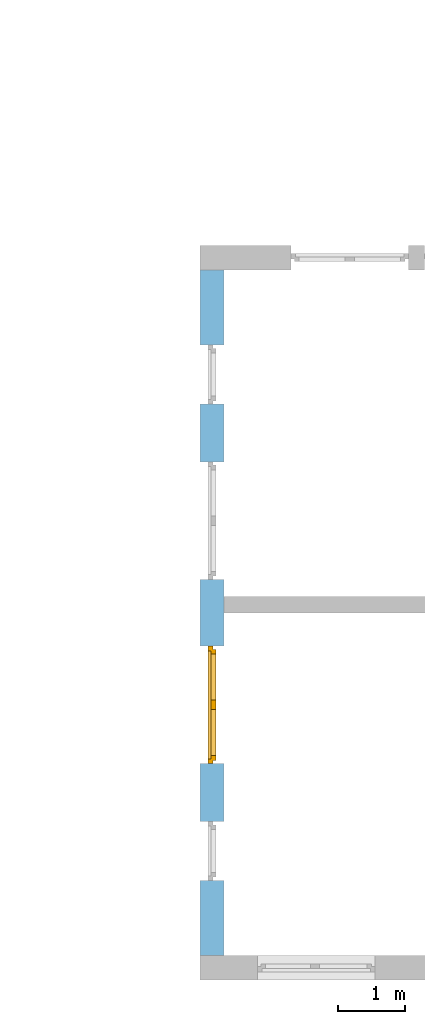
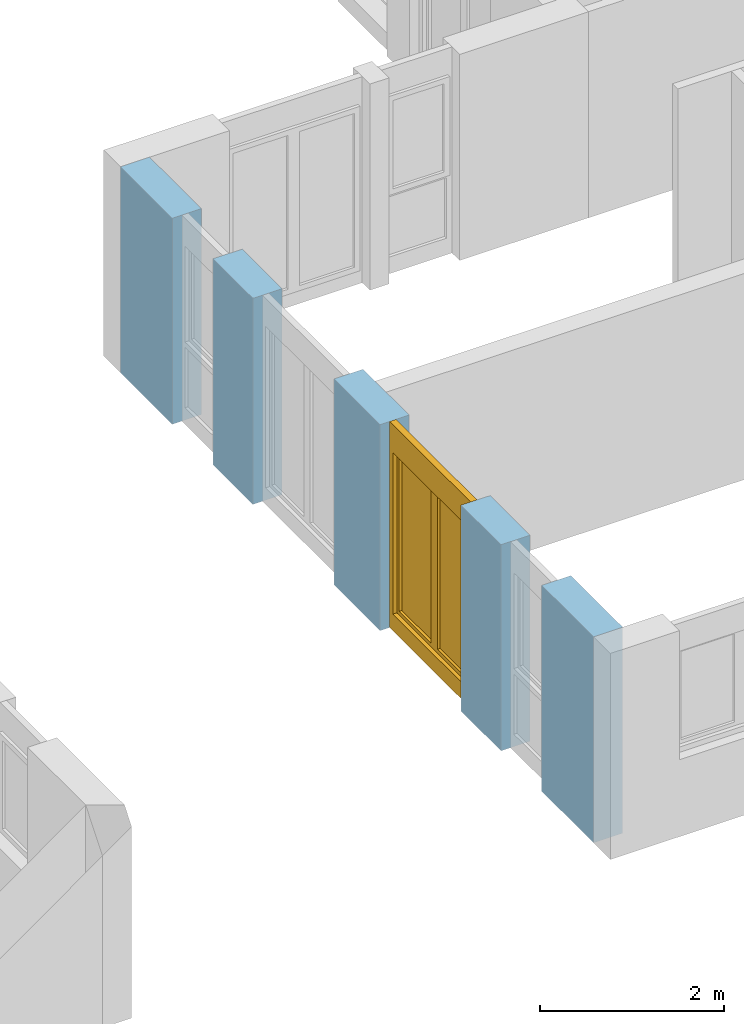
# One storey, part 14 of 41: 1 window, 4 openings, plus 1 element that does not belong to this part.
"""IFC2X3 building model written with IfcOpenShell, lengths in millimetres."""

from ifc_helpers import new_model, entity, si_unit, converted_unit, frame, frame_2d, origin, origin_with_axes, place, context, subcontext, project, spatial, rectangle, extrude, faceted_brep, material, layer, layer_set, layer_usage, type_object, element, fill, save


model = new_model("IFC2X3")

# Units and contexts
model_context = context("Model", 3, precision=1e-05, world=origin())
body_context = subcontext(model_context, "Body", "Model", "MODEL_VIEW")
ifc_project = project(units=[si_unit("LENGTHUNIT", "METRE", prefix="MILLI"), converted_unit("PLANEANGLEUNIT", "DEGREE", entity("IfcPlaneAngleMeasure", 0.0174532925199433), si_unit("PLANEANGLEUNIT", "RADIAN"), dimensions=[0, 0, 0, 0, 0, 0, 0]), si_unit("AREAUNIT", "SQUARE_METRE"), si_unit("VOLUMEUNIT", "CUBIC_METRE")], contexts=[model_context])

# Building, storey
building_placement = place(None, origin())
building = spatial("IfcBuilding", under=ifc_project, at=building_placement, Name="Gebäude", CompositionType="ELEMENT")
storey_placement = place(building_placement, frame((0.0, 0.0, -200.0), z_axis=(0.0, 0.0, 1.0), x_axis=(1.0, 0.0, 0.0)))
storey = spatial("IfcBuildingStorey", under=building, at=storey_placement, Name="EG.- Grundriss", CompositionType="ELEMENT", Elevation=-200.0)

# Wall, openings, window
ifc_material_1 = material(Name="Poroton")
ifc_layer = layer(ifc_material_1, 365.0)
ifc_layer_set = layer_set([ifc_layer])
ifc_layer_usage = layer_usage(ifc_layer_set, "AXIS2", "POSITIVE", 0.0)
wall_placement = place(storey_placement, frame((148357.7928067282, 135909.8877324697, 0.0), z_axis=(0.0, 0.0, 1.0), x_axis=(1.70032115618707e-14, -1.0, 0.0)))
wall = element("IfcWallStandardCase", 1, at=wall_placement, inside=storey, material=ifc_layer_usage, Name="<Unnamed Element>", context=body_context, shape_type="SweptSolid", body=[
    extrude(rectangle(XDim=10269.99999999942, YDim=365.0, at=frame_2d((5134.999999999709, 182.5), x_axis=(1.0, 0.0))), origin_with_axes(), (0.0, 0.0, 1.0), 2730.0),
])
opening_1_placement = place(wall_placement, frame((8259.999999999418, -9.487848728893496e-11, 0.0), z_axis=(0.0, 1.0, 0.0), x_axis=(0.0, 0.0, 1.0)))
element("IfcOpeningElement", 2, at=opening_1_placement, cuts=wall, Name="Fensteröffnung", ObjectType="Opening", context=body_context, shape_type="SweptSolid", body=[
    extrude(rectangle(XDim=2730.0, YDim=885.0, at=frame_2d((1365.0, 442.5), x_axis=(1.0, 0.0))), origin_with_axes(), (0.0, 0.0, 1.0), 365.0),
])
opening_2_placement = place(wall_placement, frame((5634.999999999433, -7.668859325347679e-11, 0.0), z_axis=(0.0, 1.0, 0.0), x_axis=(0.0, 0.0, 1.0)))
opening_2 = element("IfcOpeningElement", 3, at=opening_2_placement, cuts=wall, Name="Fensteröffnung", ObjectType="Opening", context=body_context, shape_type="SweptSolid", body=[
    extrude(rectangle(XDim=2730.0, YDim=1760.0, at=frame_2d((1365.0, 880.0), x_axis=(1.0, 0.0))), origin_with_axes(), (0.0, 0.0, 1.0), 365.0),
])
opening_3_placement = place(wall_placement, frame((2874.999999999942, -2.54658516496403e-11, 0.0), z_axis=(0.0, 1.0, 0.0), x_axis=(0.0, 0.0, 1.0)))
element("IfcOpeningElement", 4, at=opening_3_placement, cuts=wall, Name="Fensteröffnung", ObjectType="Opening", context=body_context, shape_type="SweptSolid", body=[
    extrude(rectangle(XDim=2730.0, YDim=1760.0, at=frame_2d((1365.0, 880.0), x_axis=(1.0, 0.0))), origin_with_axes(), (0.0, 0.0, 1.0), 365.0),
])
opening_4_placement = place(wall_placement, frame((1124.999999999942, -3.63797880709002e-12, 0.0), z_axis=(0.0, 1.0, 0.0), x_axis=(0.0, 0.0, 1.0)))
element("IfcOpeningElement", 5, at=opening_4_placement, cuts=wall, Name="Fensteröffnung", ObjectType="Opening", context=body_context, shape_type="SweptSolid", body=[
    extrude(rectangle(XDim=2730.0, YDim=885.0, at=frame_2d((1365.0, 442.5), x_axis=(1.0, 0.0))), origin_with_axes(), (0.0, 0.0, 1.0), 365.0),
])
ifc_material_2 = material()
window_style = type_object("IfcWindowStyle", Name="Fenster", ConstructionType="NOTDEFINED", OperationType="USERDEFINED", ParameterTakesPrecedence=False, Sizeable=False)
window_placement = place(opening_2_placement, frame((0.0, 0.0, 0.0), z_axis=(1.0, 0.0, 0.0), x_axis=(0.0, 1.0, 0.0)))
window = element("IfcWindow", 6, at=window_placement, inside=storey, type_object=window_style, material=ifc_material_2, Name="Fenster", OverallHeight=2730.0, OverallWidth=1760.0, context=body_context, shape_type="Brep", body=[
    faceted_brep([(1760.000000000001, 200.0000000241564, 2730.0), (1690.000000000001, 200.0000000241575, 2730.0), (1690.000000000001, 200.0000000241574, -2.449293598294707e-15), (1760.000000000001, 200.0000000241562, -2.449293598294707e-15), (1760.0, 120.0000000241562, 2.449293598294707e-15), (1690.0, 120.0000000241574, 2.449293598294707e-15), (1690.0, 120.0000000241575, 2730.0), (1760.0, 120.0000000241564, 2730.0), (1760.000000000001, 200.0000000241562, -2.449293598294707e-15), (1760.0, 120.0000000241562, 2.449293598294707e-15), (1760.0, 120.0000000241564, 2730.0), (1760.000000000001, 200.0000000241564, 2730.0), (1690.000000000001, 200.0000000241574, -2.449293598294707e-15), (1690.0, 120.0000000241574, 2.449293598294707e-15), (1760.0, 120.0000000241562, 2.449293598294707e-15), (1760.000000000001, 200.0000000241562, -2.449293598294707e-15), (1690.000000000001, 200.0000000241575, 2730.0), (1690.0, 120.0000000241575, 2730.0), (1690.0, 120.0000000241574, 2.449293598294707e-15), (1690.000000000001, 200.0000000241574, -2.449293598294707e-15), (1760.000000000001, 200.0000000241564, 2730.0), (1760.0, 120.0000000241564, 2730.0), (1690.0, 120.0000000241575, 2730.0), (1690.000000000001, 200.0000000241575, 2730.0)], [[[0, 1, 2, 3]], [[4, 5, 6, 7]], [[8, 9, 10, 11]], [[12, 13, 14, 15]], [[16, 17, 18, 19]], [[20, 21, 22, 23]]], orient=[[False], [False], [False], [False], [False], [False]]),
    faceted_brep([(69.99999998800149, 200.000000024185, 2730.0), (-1.199850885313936e-08, 200.0000000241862, 2730.0), (-1.199850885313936e-08, 200.000000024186, -2.449293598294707e-15), (69.99999998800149, 200.0000000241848, -2.449293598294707e-15), (69.99999998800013, 120.0000000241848, 2.449293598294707e-15), (-1.199987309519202e-08, 120.000000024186, 2.449293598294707e-15), (-1.199987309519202e-08, 120.0000000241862, 2730.0), (69.99999998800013, 120.000000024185, 2730.0), (69.99999998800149, 200.0000000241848, -2.449293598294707e-15), (69.99999998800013, 120.0000000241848, 2.449293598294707e-15), (69.99999998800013, 120.000000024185, 2730.0), (69.99999998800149, 200.000000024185, 2730.0), (-1.199850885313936e-08, 200.000000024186, -2.449293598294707e-15), (-1.199987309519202e-08, 120.000000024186, 2.449293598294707e-15), (69.99999998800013, 120.0000000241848, 2.449293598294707e-15), (69.99999998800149, 200.0000000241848, -2.449293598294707e-15), (-1.199850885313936e-08, 200.0000000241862, 2730.0), (-1.199987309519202e-08, 120.0000000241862, 2730.0), (-1.199987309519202e-08, 120.000000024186, 2.449293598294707e-15), (-1.199850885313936e-08, 200.000000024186, -2.449293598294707e-15), (69.99999998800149, 200.000000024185, 2730.0), (69.99999998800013, 120.000000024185, 2730.0), (-1.199987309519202e-08, 120.0000000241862, 2730.0), (-1.199850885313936e-08, 200.0000000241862, 2730.0)], [[[0, 1, 2, 3]], [[4, 5, 6, 7]], [[8, 9, 10, 11]], [[12, 13, 14, 15]], [[16, 17, 18, 19]], [[20, 21, 22, 23]]], orient=[[False], [False], [False], [False], [False], [False]]),
    faceted_brep([(1690.000000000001, 200.0000000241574, 220.0), (69.99999998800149, 200.0000000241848, 220.0), (69.99999998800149, 200.0000000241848, -2.449293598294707e-15), (1690.000000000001, 200.0000000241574, -2.449293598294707e-15), (1690.0, 120.0000000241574, 2.449293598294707e-15), (69.99999998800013, 120.0000000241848, 2.449293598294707e-15), (69.99999998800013, 120.0000000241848, 220.0), (1690.0, 120.0000000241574, 220.0), (1690.000000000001, 200.0000000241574, -2.449293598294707e-15), (1690.0, 120.0000000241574, 2.449293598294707e-15), (1690.0, 120.0000000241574, 220.0), (1690.000000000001, 200.0000000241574, 220.0), (69.99999998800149, 200.0000000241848, -2.449293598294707e-15), (69.99999998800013, 120.0000000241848, 2.449293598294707e-15), (1690.0, 120.0000000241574, 2.449293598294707e-15), (1690.000000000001, 200.0000000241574, -2.449293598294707e-15), (69.99999998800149, 200.0000000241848, 220.0), (69.99999998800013, 120.0000000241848, 220.0), (69.99999998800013, 120.0000000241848, 2.449293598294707e-15), (69.99999998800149, 200.0000000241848, -2.449293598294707e-15), (1690.000000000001, 200.0000000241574, 220.0), (1690.0, 120.0000000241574, 220.0), (69.99999998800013, 120.0000000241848, 220.0), (69.99999998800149, 200.0000000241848, 220.0)], [[[0, 1, 2, 3]], [[4, 5, 6, 7]], [[8, 9, 10, 11]], [[12, 13, 14, 15]], [[16, 17, 18, 19]], [[20, 21, 22, 23]]], orient=[[False], [False], [False], [False], [False], [False]]),
    faceted_brep([(1690.000000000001, 200.0000000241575, 2730.0), (69.99999998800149, 200.000000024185, 2730.0), (69.99999998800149, 200.0000000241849, 2360.0), (1690.000000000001, 200.0000000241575, 2360.0), (1690.0, 120.0000000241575, 2360.0), (69.99999998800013, 120.000000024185, 2360.0), (69.99999998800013, 120.000000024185, 2730.0), (1690.0, 120.0000000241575, 2730.0), (1690.000000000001, 200.0000000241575, 2360.0), (1690.0, 120.0000000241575, 2360.0), (1690.0, 120.0000000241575, 2730.0), (1690.000000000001, 200.0000000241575, 2730.0), (69.99999998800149, 200.0000000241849, 2360.0), (69.99999998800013, 120.000000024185, 2360.0), (1690.0, 120.0000000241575, 2360.0), (1690.000000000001, 200.0000000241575, 2360.0), (69.99999998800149, 200.000000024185, 2730.0), (69.99999998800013, 120.000000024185, 2730.0), (69.99999998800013, 120.000000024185, 2360.0), (69.99999998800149, 200.0000000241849, 2360.0), (1690.000000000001, 200.0000000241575, 2730.0), (1690.0, 120.0000000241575, 2730.0), (69.99999998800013, 120.000000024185, 2730.0), (69.99999998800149, 200.000000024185, 2730.0)], [[[0, 1, 2, 3]], [[4, 5, 6, 7]], [[8, 9, 10, 11]], [[12, 13, 14, 15]], [[16, 17, 18, 19]], [[20, 21, 22, 23]]], orient=[[False], [False], [False], [False], [False], [False]]),
    faceted_brep([(1710.000000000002, 240.0000000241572, 2380.0), (1640.000000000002, 240.0000000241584, 2380.0), (1640.000000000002, 240.0000000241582, 200.0), (1710.000000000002, 240.0000000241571, 200.0), (1710.000000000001, 170.0000000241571, 200.0), (1640.000000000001, 170.0000000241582, 200.0), (1640.000000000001, 170.0000000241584, 2380.0), (1710.000000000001, 170.0000000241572, 2380.0), (1710.000000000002, 240.0000000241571, 200.0), (1710.000000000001, 170.0000000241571, 200.0), (1710.000000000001, 170.0000000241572, 2380.0), (1710.000000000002, 240.0000000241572, 2380.0), (1640.000000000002, 240.0000000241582, 200.0), (1640.000000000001, 170.0000000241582, 200.0), (1710.000000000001, 170.0000000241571, 200.0), (1710.000000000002, 240.0000000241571, 200.0), (1640.000000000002, 240.0000000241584, 2380.0), (1640.000000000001, 170.0000000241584, 2380.0), (1640.000000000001, 170.0000000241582, 200.0), (1640.000000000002, 240.0000000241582, 200.0), (1710.000000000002, 240.0000000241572, 2380.0), (1710.000000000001, 170.0000000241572, 2380.0), (1640.000000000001, 170.0000000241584, 2380.0), (1640.000000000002, 240.0000000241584, 2380.0)], [[[0, 1, 2, 3]], [[4, 5, 6, 7]], [[8, 9, 10, 11]], [[12, 13, 14, 15]], [[16, 17, 18, 19]], [[20, 21, 22, 23]]], orient=[[False], [False], [False], [False], [False], [False]]),
    faceted_brep([(950.4999999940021, 240.0000000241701, 2380.0), (880.4999999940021, 240.0000000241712, 2380.0), (880.4999999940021, 240.0000000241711, 200.0), (950.4999999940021, 240.0000000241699, 200.0), (950.4999999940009, 170.0000000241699, 200.0), (880.4999999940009, 170.0000000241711, 200.0), (880.4999999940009, 170.0000000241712, 2380.0), (950.4999999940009, 170.0000000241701, 2380.0), (950.4999999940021, 240.0000000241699, 200.0), (950.4999999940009, 170.0000000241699, 200.0), (950.4999999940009, 170.0000000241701, 2380.0), (950.4999999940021, 240.0000000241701, 2380.0), (880.4999999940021, 240.0000000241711, 200.0), (880.4999999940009, 170.0000000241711, 200.0), (950.4999999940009, 170.0000000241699, 200.0), (950.4999999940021, 240.0000000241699, 200.0), (880.4999999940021, 240.0000000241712, 2380.0), (880.4999999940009, 170.0000000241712, 2380.0), (880.4999999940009, 170.0000000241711, 200.0), (880.4999999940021, 240.0000000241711, 200.0), (950.4999999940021, 240.0000000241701, 2380.0), (950.4999999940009, 170.0000000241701, 2380.0), (880.4999999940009, 170.0000000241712, 2380.0), (880.4999999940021, 240.0000000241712, 2380.0)], [[[0, 1, 2, 3]], [[4, 5, 6, 7]], [[8, 9, 10, 11]], [[12, 13, 14, 15]], [[16, 17, 18, 19]], [[20, 21, 22, 23]]], orient=[[False], [False], [False], [False], [False], [False]]),
    faceted_brep([(1640.000000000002, 240.0000000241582, 270.0), (950.4999999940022, 240.0000000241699, 270.0), (950.4999999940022, 240.0000000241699, 200.0), (1640.000000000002, 240.0000000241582, 200.0), (1640.000000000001, 170.0000000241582, 200.0), (950.499999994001, 170.0000000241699, 200.0), (950.499999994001, 170.0000000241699, 270.0), (1640.000000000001, 170.0000000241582, 270.0), (1640.000000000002, 240.0000000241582, 200.0), (1640.000000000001, 170.0000000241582, 200.0), (1640.000000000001, 170.0000000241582, 270.0), (1640.000000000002, 240.0000000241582, 270.0), (950.4999999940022, 240.0000000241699, 200.0), (950.499999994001, 170.0000000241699, 200.0), (1640.000000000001, 170.0000000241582, 200.0), (1640.000000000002, 240.0000000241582, 200.0), (950.4999999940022, 240.0000000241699, 270.0), (950.499999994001, 170.0000000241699, 270.0), (950.499999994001, 170.0000000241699, 200.0), (950.4999999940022, 240.0000000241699, 200.0), (1640.000000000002, 240.0000000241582, 270.0), (1640.000000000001, 170.0000000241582, 270.0), (950.499999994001, 170.0000000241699, 270.0), (950.4999999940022, 240.0000000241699, 270.0)], [[[0, 1, 2, 3]], [[4, 5, 6, 7]], [[8, 9, 10, 11]], [[12, 13, 14, 15]], [[16, 17, 18, 19]], [[20, 21, 22, 23]]], orient=[[False], [False], [False], [False], [False], [False]]),
    faceted_brep([(1640.000000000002, 240.0000000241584, 2380.0), (950.4999999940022, 240.0000000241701, 2380.0), (950.4999999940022, 240.0000000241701, 2310.0), (1640.000000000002, 240.0000000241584, 2310.0), (1640.000000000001, 170.0000000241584, 2310.0), (950.499999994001, 170.0000000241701, 2310.0), (950.499999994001, 170.0000000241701, 2380.0), (1640.000000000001, 170.0000000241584, 2380.0), (1640.000000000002, 240.0000000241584, 2310.0), (1640.000000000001, 170.0000000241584, 2310.0), (1640.000000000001, 170.0000000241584, 2380.0), (1640.000000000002, 240.0000000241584, 2380.0), (950.4999999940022, 240.0000000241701, 2310.0), (950.499999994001, 170.0000000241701, 2310.0), (1640.000000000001, 170.0000000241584, 2310.0), (1640.000000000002, 240.0000000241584, 2310.0), (950.4999999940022, 240.0000000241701, 2380.0), (950.499999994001, 170.0000000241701, 2380.0), (950.499999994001, 170.0000000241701, 2310.0), (950.4999999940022, 240.0000000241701, 2310.0), (1640.000000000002, 240.0000000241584, 2380.0), (1640.000000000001, 170.0000000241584, 2380.0), (950.499999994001, 170.0000000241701, 2380.0), (950.4999999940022, 240.0000000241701, 2380.0)], [[[0, 1, 2, 3]], [[4, 5, 6, 7]], [[8, 9, 10, 11]], [[12, 13, 14, 15]], [[16, 17, 18, 19]], [[20, 21, 22, 23]]], orient=[[False], [False], [False], [False], [False], [False]]),
    faceted_brep([(879.4999999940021, 240.0000000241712, 2380.0), (809.4999999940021, 240.0000000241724, 2380.0), (809.4999999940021, 240.0000000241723, 200.0), (879.4999999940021, 240.0000000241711, 200.0), (879.4999999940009, 170.0000000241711, 200.0), (809.4999999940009, 170.0000000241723, 200.0), (809.4999999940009, 170.0000000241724, 2380.0), (879.4999999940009, 170.0000000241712, 2380.0), (879.4999999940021, 240.0000000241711, 200.0), (879.4999999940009, 170.0000000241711, 200.0), (879.4999999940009, 170.0000000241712, 2380.0), (879.4999999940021, 240.0000000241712, 2380.0), (809.4999999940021, 240.0000000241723, 200.0), (809.4999999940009, 170.0000000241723, 200.0), (879.4999999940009, 170.0000000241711, 200.0), (879.4999999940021, 240.0000000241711, 200.0), (809.4999999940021, 240.0000000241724, 2380.0), (809.4999999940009, 170.0000000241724, 2380.0), (809.4999999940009, 170.0000000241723, 200.0), (809.4999999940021, 240.0000000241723, 200.0), (879.4999999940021, 240.0000000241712, 2380.0), (879.4999999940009, 170.0000000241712, 2380.0), (809.4999999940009, 170.0000000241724, 2380.0), (809.4999999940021, 240.0000000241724, 2380.0)], [[[0, 1, 2, 3]], [[4, 5, 6, 7]], [[8, 9, 10, 11]], [[12, 13, 14, 15]], [[16, 17, 18, 19]], [[20, 21, 22, 23]]], orient=[[False], [False], [False], [False], [False], [False]]),
    faceted_brep([(119.9999999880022, 240.0000000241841, 2380.0), (49.99999998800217, 240.0000000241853, 2380.0), (49.99999998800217, 240.0000000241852, 200.0), (119.9999999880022, 240.000000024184, 200.0), (119.999999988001, 170.000000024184, 200.0), (49.99999998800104, 170.0000000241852, 200.0), (49.99999998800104, 170.0000000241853, 2380.0), (119.999999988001, 170.0000000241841, 2380.0), (119.9999999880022, 240.000000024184, 200.0), (119.999999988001, 170.000000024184, 200.0), (119.999999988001, 170.0000000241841, 2380.0), (119.9999999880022, 240.0000000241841, 2380.0), (49.99999998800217, 240.0000000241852, 200.0), (49.99999998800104, 170.0000000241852, 200.0), (119.999999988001, 170.000000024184, 200.0), (119.9999999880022, 240.000000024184, 200.0), (49.99999998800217, 240.0000000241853, 2380.0), (49.99999998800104, 170.0000000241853, 2380.0), (49.99999998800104, 170.0000000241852, 200.0), (49.99999998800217, 240.0000000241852, 200.0), (119.9999999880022, 240.0000000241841, 2380.0), (119.999999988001, 170.0000000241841, 2380.0), (49.99999998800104, 170.0000000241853, 2380.0), (49.99999998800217, 240.0000000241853, 2380.0)], [[[0, 1, 2, 3]], [[4, 5, 6, 7]], [[8, 9, 10, 11]], [[12, 13, 14, 15]], [[16, 17, 18, 19]], [[20, 21, 22, 23]]], orient=[[False], [False], [False], [False], [False], [False]]),
    faceted_brep([(809.4999999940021, 240.0000000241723, 270.0), (119.9999999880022, 240.000000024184, 270.0), (119.9999999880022, 240.000000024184, 200.0), (809.4999999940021, 240.0000000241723, 200.0), (809.4999999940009, 170.0000000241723, 200.0), (119.999999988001, 170.000000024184, 200.0), (119.999999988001, 170.000000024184, 270.0), (809.4999999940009, 170.0000000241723, 270.0), (809.4999999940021, 240.0000000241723, 200.0), (809.4999999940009, 170.0000000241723, 200.0), (809.4999999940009, 170.0000000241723, 270.0), (809.4999999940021, 240.0000000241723, 270.0), (119.9999999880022, 240.000000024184, 200.0), (119.999999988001, 170.000000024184, 200.0), (809.4999999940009, 170.0000000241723, 200.0), (809.4999999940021, 240.0000000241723, 200.0), (119.9999999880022, 240.000000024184, 270.0), (119.999999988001, 170.000000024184, 270.0), (119.999999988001, 170.000000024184, 200.0), (119.9999999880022, 240.000000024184, 200.0), (809.4999999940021, 240.0000000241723, 270.0), (809.4999999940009, 170.0000000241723, 270.0), (119.999999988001, 170.000000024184, 270.0), (119.9999999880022, 240.000000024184, 270.0)], [[[0, 1, 2, 3]], [[4, 5, 6, 7]], [[8, 9, 10, 11]], [[12, 13, 14, 15]], [[16, 17, 18, 19]], [[20, 21, 22, 23]]], orient=[[False], [False], [False], [False], [False], [False]]),
    faceted_brep([(809.4999999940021, 240.0000000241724, 2380.0), (119.9999999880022, 240.0000000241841, 2380.0), (119.9999999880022, 240.0000000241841, 2310.0), (809.4999999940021, 240.0000000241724, 2310.0), (809.4999999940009, 170.0000000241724, 2310.0), (119.999999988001, 170.0000000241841, 2310.0), (119.999999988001, 170.0000000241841, 2380.0), (809.4999999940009, 170.0000000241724, 2380.0), (809.4999999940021, 240.0000000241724, 2310.0), (809.4999999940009, 170.0000000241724, 2310.0), (809.4999999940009, 170.0000000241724, 2380.0), (809.4999999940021, 240.0000000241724, 2380.0), (119.9999999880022, 240.0000000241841, 2310.0), (119.999999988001, 170.0000000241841, 2310.0), (809.4999999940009, 170.0000000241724, 2310.0), (809.4999999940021, 240.0000000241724, 2310.0), (119.9999999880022, 240.0000000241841, 2380.0), (119.999999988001, 170.0000000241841, 2380.0), (119.999999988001, 170.0000000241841, 2310.0), (119.9999999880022, 240.0000000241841, 2310.0), (809.4999999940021, 240.0000000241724, 2380.0), (809.4999999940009, 170.0000000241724, 2380.0), (119.999999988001, 170.0000000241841, 2380.0), (119.9999999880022, 240.0000000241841, 2380.0)], [[[0, 1, 2, 3]], [[4, 5, 6, 7]], [[8, 9, 10, 11]], [[12, 13, 14, 15]], [[16, 17, 18, 19]], [[20, 21, 22, 23]]], orient=[[False], [False], [False], [False], [False], [False]]),
    faceted_brep([(1640.000000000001, 205.0000000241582, 270.0), (1640.000000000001, 205.0000000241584, 2310.0), (950.4999999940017, 205.0000000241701, 2310.0), (950.4999999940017, 205.0000000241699, 270.0), (1640.000000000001, 204.0000000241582, 270.0), (950.4999999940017, 204.0000000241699, 270.0), (950.4999999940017, 204.0000000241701, 2310.0), (1640.000000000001, 204.0000000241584, 2310.0), (1640.000000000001, 205.0000000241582, 270.0), (1640.000000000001, 204.0000000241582, 270.0), (1640.000000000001, 204.0000000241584, 2310.0), (1640.000000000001, 205.0000000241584, 2310.0), (1640.000000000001, 205.0000000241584, 2310.0), (1640.000000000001, 204.0000000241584, 2310.0), (950.4999999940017, 204.0000000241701, 2310.0), (950.4999999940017, 205.0000000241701, 2310.0), (950.4999999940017, 205.0000000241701, 2310.0), (950.4999999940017, 204.0000000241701, 2310.0), (950.4999999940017, 204.0000000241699, 270.0), (950.4999999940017, 205.0000000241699, 270.0), (950.4999999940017, 205.0000000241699, 270.0), (950.4999999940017, 204.0000000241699, 270.0), (1640.000000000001, 204.0000000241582, 270.0), (1640.000000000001, 205.0000000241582, 270.0)], [[[0, 1, 2, 3]], [[4, 5, 6, 7]], [[8, 9, 10, 11]], [[12, 13, 14, 15]], [[16, 17, 18, 19]], [[20, 21, 22, 23]]], orient=[[False], [False], [False], [False], [False], [False]]),
    faceted_brep([(809.4999999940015, 205.0000000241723, 270.0), (809.4999999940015, 205.0000000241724, 2310.0), (119.9999999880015, 205.0000000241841, 2310.0), (119.9999999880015, 205.000000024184, 270.0), (809.4999999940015, 204.0000000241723, 270.0), (119.9999999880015, 204.000000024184, 270.0), (119.9999999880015, 204.0000000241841, 2310.0), (809.4999999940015, 204.0000000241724, 2310.0), (809.4999999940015, 205.0000000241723, 270.0), (809.4999999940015, 204.0000000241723, 270.0), (809.4999999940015, 204.0000000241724, 2310.0), (809.4999999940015, 205.0000000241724, 2310.0), (809.4999999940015, 205.0000000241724, 2310.0), (809.4999999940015, 204.0000000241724, 2310.0), (119.9999999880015, 204.0000000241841, 2310.0), (119.9999999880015, 205.0000000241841, 2310.0), (119.9999999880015, 205.0000000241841, 2310.0), (119.9999999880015, 204.0000000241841, 2310.0), (119.9999999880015, 204.000000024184, 270.0), (119.9999999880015, 205.000000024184, 270.0), (119.9999999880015, 205.000000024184, 270.0), (119.9999999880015, 204.000000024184, 270.0), (809.4999999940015, 204.0000000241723, 270.0), (809.4999999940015, 205.0000000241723, 270.0)], [[[0, 1, 2, 3]], [[4, 5, 6, 7]], [[8, 9, 10, 11]], [[12, 13, 14, 15]], [[16, 17, 18, 19]], [[20, 21, 22, 23]]], orient=[[False], [False], [False], [False], [False], [False]]),
])
fill(opening_2, window)

save(model, "model.ifc")
